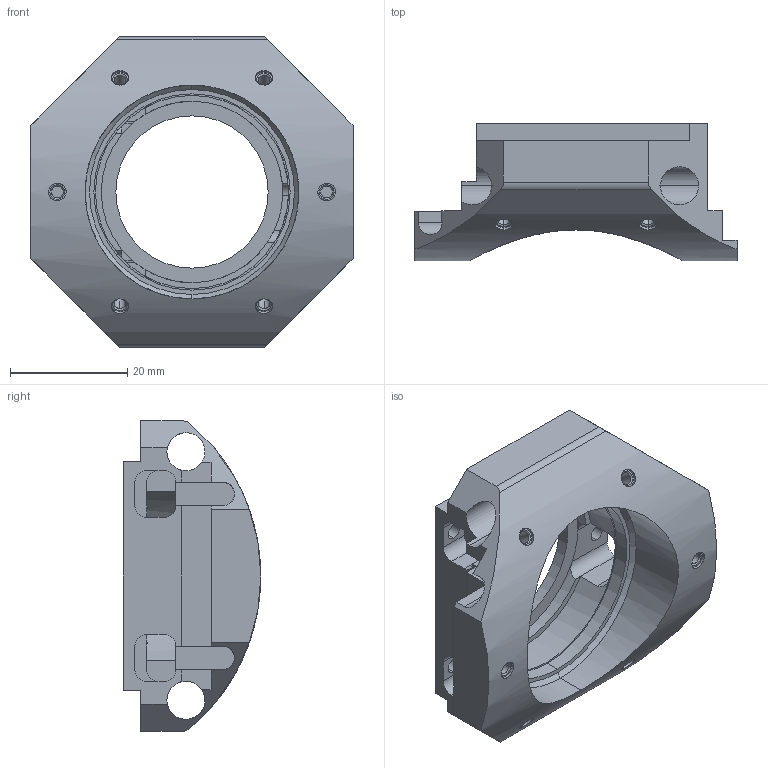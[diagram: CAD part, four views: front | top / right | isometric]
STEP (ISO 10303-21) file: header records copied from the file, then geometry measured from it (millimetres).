
FILE_DESCRIPTION(/* description */ ('(C) Elphel, Inc. 2012. Licensed under CERN OHL v.1.1 or later, see http://ohwr.org/cernohl'),/* implementation_level */ '2;1');
FILE_NAME(/* name */ '0353-12-42B',/* time_stamp */ '2012-06-04T16:08:47-06:00',/* author */ (''),/* organization */ ('Elphel, Inc'),/* preprocessor_version */ 'ST-DEVELOPER v12',/* originating_system */ 'VariCAD 2012-1.04; kernel version (20100102)',/* authorisation */ '');
FILE_SCHEMA (('AUTOMOTIVE_DESIGN'));
Length unit declared in the file: millimetre
Products named in the file (1): Part
Bounding box: 55 x 23.5 x 53 mm (x, y, z)
Volume: 17209.1 mm3; surface area: 11726.7 mm2
Topology: 9 solids, 9 shells, 235 faces, 593 edges, 381 vertices
Faces by surface type: cylinder 126, plane 91, cone 18
Entity records: 9489 total; most frequent: CARTESIAN_POINT 1951, DIRECTION 1226, ORIENTED_EDGE 1186, EDGE_CURVE 593, AXIS2_PLACEMENT_3D 455, VERTEX_POINT 381, LINE 316, VECTOR 316
